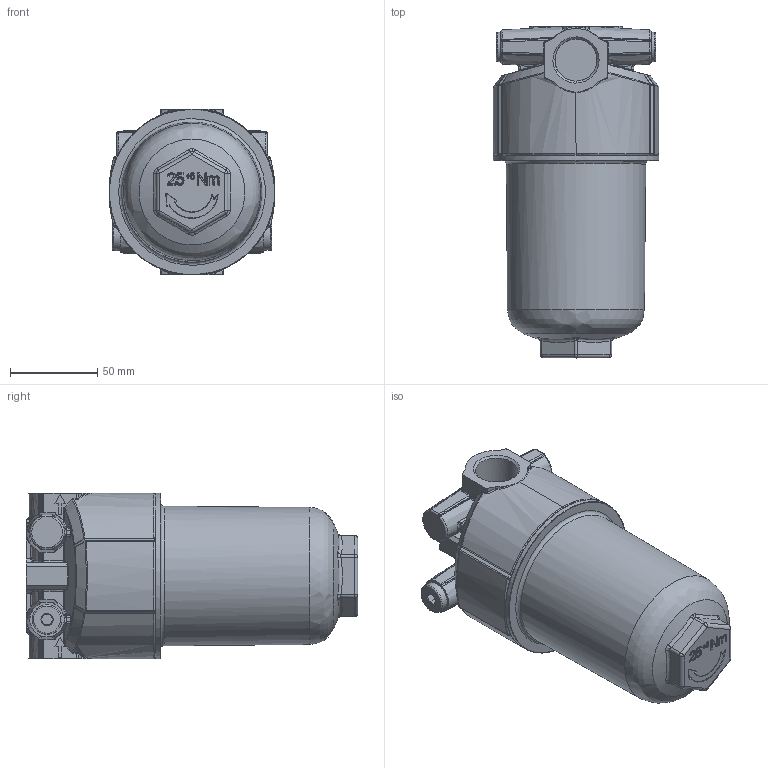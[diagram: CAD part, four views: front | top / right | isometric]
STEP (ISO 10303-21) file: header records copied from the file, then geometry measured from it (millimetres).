
FILE_DESCRIPTION((''),'2;1');
FILE_NAME('U:\Users\t.schleuter\Ruecklauffilter28782800(313860).stp','2013-04-15T09:38:24',('User'),('SDRC'),'I-DEAS Master Series 9','UNIX','Yes');
FILE_SCHEMA(('AUTOMOTIVE_DESIGN { 1 0 10303 214 1 1 1 1 }'));
Length unit declared in the file: millimetre
Products named in the file (1): 28782800(313860)
Bounding box: 94.97 x 190 x 95 mm (x, y, z)
Volume: 971951.6 mm3; surface area: 75289.8 mm2
Topology: 1 solids, 7 shells, 1353 faces, 3188 edges, 1755 vertices
Faces by surface type: bspline 1353
Entity records: 46502 total; most frequent: CARTESIAN_POINT 29209, ORIENTED_EDGE 6122, EDGE_CURVE 3061, B_SPLINE_CURVE_WITH_KNOTS 1767, VERTEX_POINT 1740, EDGE_LOOP 1375, FACE_OUTER_BOUND 1353, ADVANCED_FACE 1353
